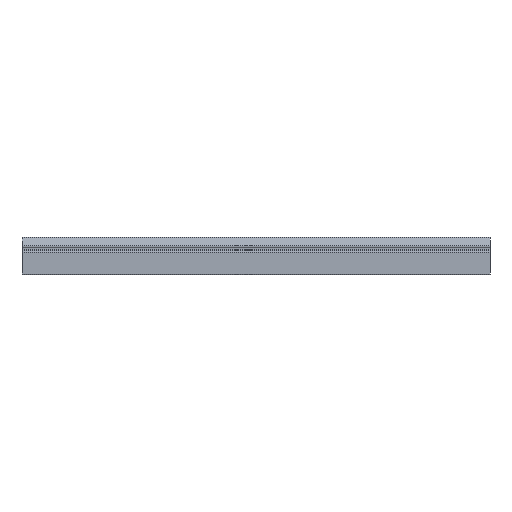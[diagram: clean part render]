
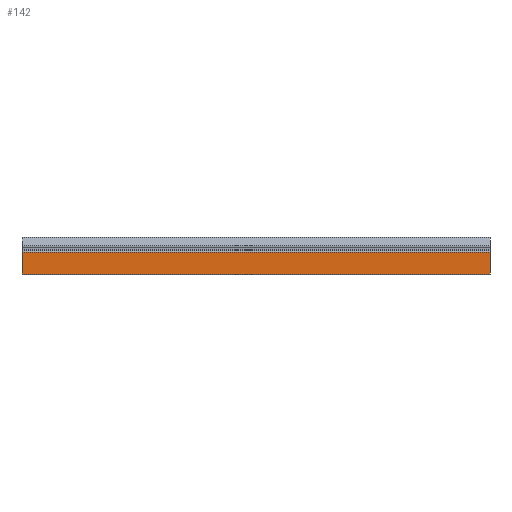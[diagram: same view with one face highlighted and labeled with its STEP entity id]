
A CAD part, left-side view. The second image highlights one B-rep face of the part: STEP entity #142.
In plain terms, the highlighted planar face has unit normal (-1, 0, 0).
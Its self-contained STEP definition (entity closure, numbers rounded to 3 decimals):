
#142=ADVANCED_FACE('',(#293),#294,.F.);
#293=FACE_OUTER_BOUND('',#450,.T.);
#294=PLANE('',#451);
#450=EDGE_LOOP('',(#815,#816,#817,#818));
#451=AXIS2_PLACEMENT_3D('',#819,#820,#821);
#815=ORIENTED_EDGE('',*,*,#1035,.F.);
#816=ORIENTED_EDGE('',*,*,#1131,.F.);
#817=ORIENTED_EDGE('',*,*,#1146,.T.);
#818=ORIENTED_EDGE('',*,*,#1147,.T.);
#819=CARTESIAN_POINT('',(-7.75,-200.0,-9.7));
#820=DIRECTION('',(1.0,0.0,0.0));
#821=DIRECTION('',(0.0,-1.0,0.0));
#1035=EDGE_CURVE('',#1265,#1266,#1267,.T.);
#1131=EDGE_CURVE('',#1412,#1265,#1414,.T.);
#1146=EDGE_CURVE('',#1412,#1432,#1433,.T.);
#1147=EDGE_CURVE('',#1432,#1266,#1434,.T.);
#1265=VERTEX_POINT('',#1585);
#1266=VERTEX_POINT('',#1586);
#1267=LINE('',#1587,#1588);
#1412=VERTEX_POINT('',#1784);
#1414=LINE('',#1786,#1787);
#1432=VERTEX_POINT('',#1811);
#1433=LINE('',#1812,#1813);
#1434=LINE('',#1814,#1815);
#1585=CARTESIAN_POINT('',(-7.75,0.0,-9.7));
#1586=CARTESIAN_POINT('',(-7.75,0.0,-0.3));
#1587=CARTESIAN_POINT('',(-7.75,0.0,-9.7));
#1588=VECTOR('',#1918,1.0);
#1784=CARTESIAN_POINT('',(-7.75,-200.0,-9.7));
#1786=CARTESIAN_POINT('',(-7.75,-200.0,-9.7));
#1787=VECTOR('',#2048,1.0);
#1811=CARTESIAN_POINT('',(-7.75,-200.0,-0.3));
#1812=CARTESIAN_POINT('',(-7.75,-200.0,-9.7));
#1813=VECTOR('',#2061,1.0);
#1814=CARTESIAN_POINT('',(-7.75,-200.0,-0.3));
#1815=VECTOR('',#2062,1.0);
#1918=DIRECTION('',(0.0,0.0,1.0));
#2048=DIRECTION('',(0.0,1.0,0.0));
#2061=DIRECTION('',(0.0,0.0,1.0));
#2062=DIRECTION('',(0.0,1.0,0.0));
